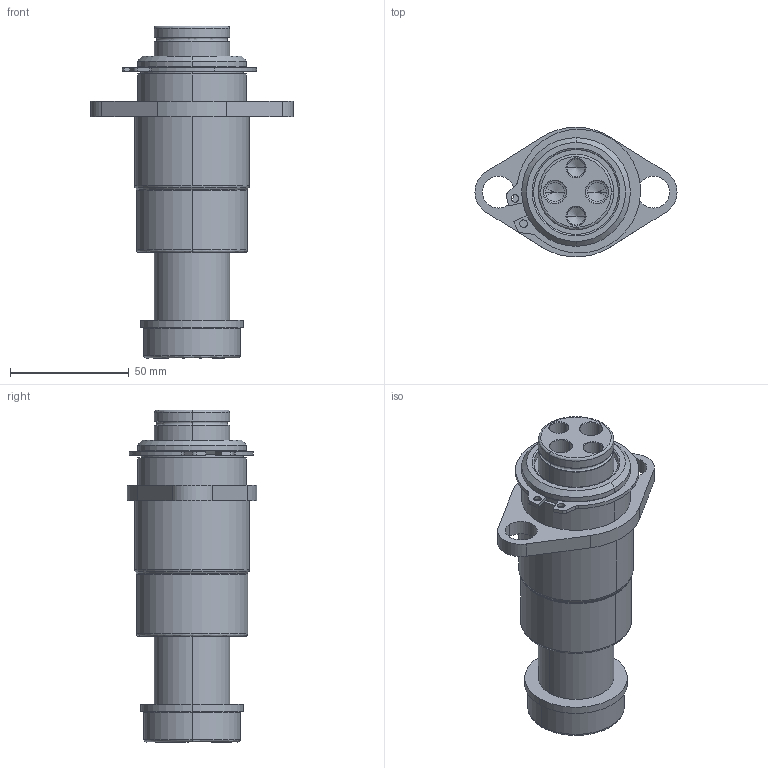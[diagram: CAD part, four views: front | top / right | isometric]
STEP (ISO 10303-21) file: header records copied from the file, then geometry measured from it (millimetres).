
FILE_DESCRIPTION (( 'STEP AP214' ), '1' );
FILE_NAME ('GK120-N3-1-BP-E-XXX.STEP', '2020-09-21T16:09:01', ( '' ), ( '' ), 'SwSTEP 2.0', 'SolidWorks 2017', '' );
FILE_SCHEMA (( 'AUTOMOTIVE_DESIGN' ));
Length unit declared in the file: inch
Products named in the file (7): GK1.25-N3-1-BP-Base; RetainingRing; GK120-N3-1-BP-E-XXX; GK120-DampeningWasher; GK120-E-XXX-GuidePin
Assembly tree (6 placements, depth 3):
  GK120-N3-1-BP-E-XXX
    GK1.25-N3-1-BP-Base
      GK1.25-N3-1-BP-Base
      RetainingRing
    GK120-E-XXX-GuidePin
      GK120-E-XXX-GuidePin
      GK120-DampeningWasher
Bounding box: 85.09 x 54.52 x 139.7 mm (x, y, z)
Volume: 197410.5 mm3; surface area: 48616.3 mm2
Topology: 4 solids, 4 shells, 153 faces, 351 edges, 212 vertices
Faces by surface type: cylinder 69, bspline 30, cone 30, plane 24
Entity records: 5927 total; most frequent: CARTESIAN_POINT 2089, DIRECTION 759, ORIENTED_EDGE 686, EDGE_CURVE 343, AXIS2_PLACEMENT_3D 312, VERTEX_POINT 212, EDGE_LOOP 179, CIRCLE 178
